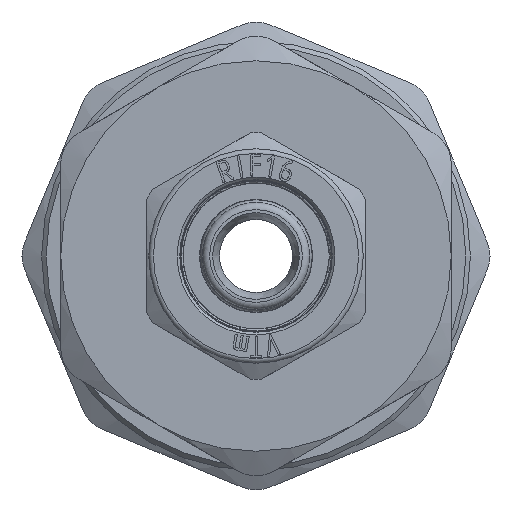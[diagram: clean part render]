
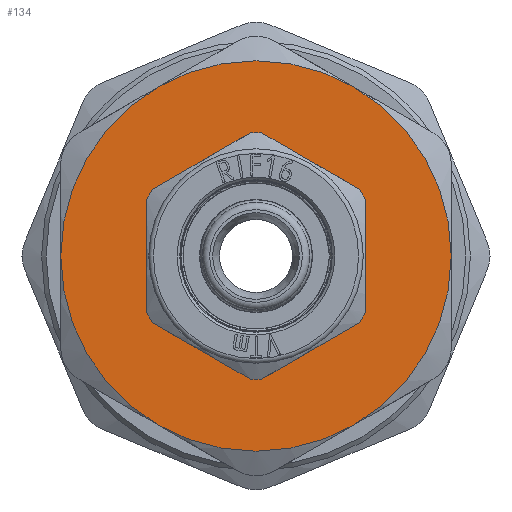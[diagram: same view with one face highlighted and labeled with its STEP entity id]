
A CAD part, front view. The second image highlights one B-rep face of the part: STEP entity #134.
In plain terms, the highlighted planar face has unit normal (0, -1, 0).
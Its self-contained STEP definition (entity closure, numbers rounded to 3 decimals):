
#134=ADVANCED_FACE('',(#1234,#1236),#1238,.F.);
#1234=FACE_BOUND('',#1235,.T.);
#1235=EDGE_LOOP('',(#5121,#5122,#5123,#5124,#5125,#5126));
#1236=FACE_BOUND('',#1237,.T.);
#1237=EDGE_LOOP('',(#5127));
#1238=PLANE('',#1239);
#1239=AXIS2_PLACEMENT_3D('',#1240,#1241,#1242);
#1240=CARTESIAN_POINT('',(0.,-3.5,0.));
#1241=DIRECTION('',(0.,1.,0.));
#1242=DIRECTION('',(-1.,0.,0.));
#5121=ORIENTED_EDGE('',*,*,#8747,.T.);
#5122=ORIENTED_EDGE('',*,*,#8748,.T.);
#5123=ORIENTED_EDGE('',*,*,#8749,.T.);
#5124=ORIENTED_EDGE('',*,*,#8750,.T.);
#5125=ORIENTED_EDGE('',*,*,#8751,.T.);
#5126=ORIENTED_EDGE('',*,*,#8752,.T.);
#5127=ORIENTED_EDGE('',*,*,#8739,.F.);
#8739=EDGE_CURVE('',#10367,#10367,#10368,.T.);
#8747=EDGE_CURVE('',#10383,#10384,#10385,.F.);
#8748=EDGE_CURVE('',#10384,#10386,#10387,.F.);
#8749=EDGE_CURVE('',#10386,#10388,#10389,.F.);
#8750=EDGE_CURVE('',#10388,#10390,#10391,.F.);
#8751=EDGE_CURVE('',#10390,#10392,#10393,.F.);
#8752=EDGE_CURVE('',#10392,#10383,#10394,.F.);
#10367=VERTEX_POINT('',#13638);
#10368=CIRCLE('',#13639,9.1);
#10383=VERTEX_POINT('',#13678);
#10384=VERTEX_POINT('',#13679);
#10385=CIRCLE('',#13680,21.4);
#10386=VERTEX_POINT('',#13684);
#10387=CIRCLE('',#13685,21.4);
#10388=VERTEX_POINT('',#13689);
#10389=CIRCLE('',#13690,21.4);
#10390=VERTEX_POINT('',#13694);
#10391=CIRCLE('',#13695,21.4);
#10392=VERTEX_POINT('',#13699);
#10393=CIRCLE('',#13700,21.4);
#10394=CIRCLE('',#13704,21.4);
#13638=CARTESIAN_POINT('',(9.1,-3.5,0.));
#13639=AXIS2_PLACEMENT_3D('',#13640,#13641,#13642);
#13640=CARTESIAN_POINT('',(0.,-3.5,0.));
#13641=DIRECTION('',(0.,-1.,0.));
#13642=DIRECTION('',(1.,0.,0.));
#13678=CARTESIAN_POINT('',(10.7,-3.5,-18.533));
#13679=CARTESIAN_POINT('',(21.4,-3.5,0.));
#13680=AXIS2_PLACEMENT_3D('',#13681,#13682,#13683);
#13681=CARTESIAN_POINT('',(0.,-3.5,0.));
#13682=DIRECTION('',(0.,1.,0.));
#13683=DIRECTION('',(1.,0.,0.));
#13684=CARTESIAN_POINT('',(10.7,-3.5,18.533));
#13685=AXIS2_PLACEMENT_3D('',#13686,#13687,#13688);
#13686=CARTESIAN_POINT('',(0.,-3.5,0.));
#13687=DIRECTION('',(0.,1.,0.));
#13688=DIRECTION('',(0.5,0.,0.866));
#13689=CARTESIAN_POINT('',(-10.7,-3.5,18.533));
#13690=AXIS2_PLACEMENT_3D('',#13691,#13692,#13693);
#13691=CARTESIAN_POINT('',(0.,-3.5,0.));
#13692=DIRECTION('',(0.,1.,0.));
#13693=DIRECTION('',(-0.5,0.,0.866));
#13694=CARTESIAN_POINT('',(-21.4,-3.5,0.));
#13695=AXIS2_PLACEMENT_3D('',#13696,#13697,#13698);
#13696=CARTESIAN_POINT('',(0.,-3.5,0.));
#13697=DIRECTION('',(0.,1.,0.));
#13698=DIRECTION('',(-1.,0.,0.));
#13699=CARTESIAN_POINT('',(-10.7,-3.5,-18.533));
#13700=AXIS2_PLACEMENT_3D('',#13701,#13702,#13703);
#13701=CARTESIAN_POINT('',(0.,-3.5,0.));
#13702=DIRECTION('',(0.,1.,0.));
#13703=DIRECTION('',(-0.5,0.,-0.866));
#13704=AXIS2_PLACEMENT_3D('',#13705,#13706,#13707);
#13705=CARTESIAN_POINT('',(0.,-3.5,0.));
#13706=DIRECTION('',(0.,1.,0.));
#13707=DIRECTION('',(0.5,0.,-0.866));
